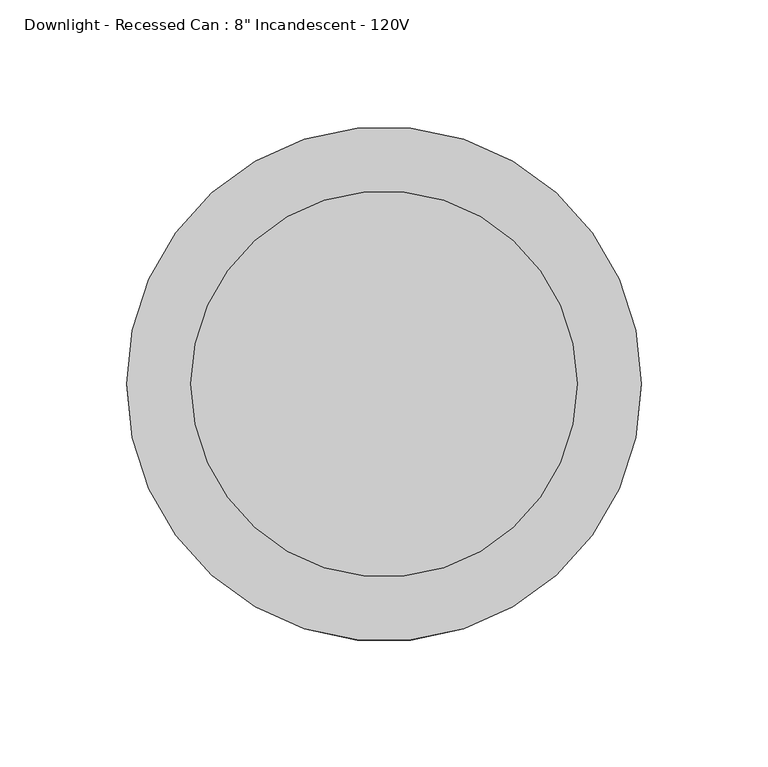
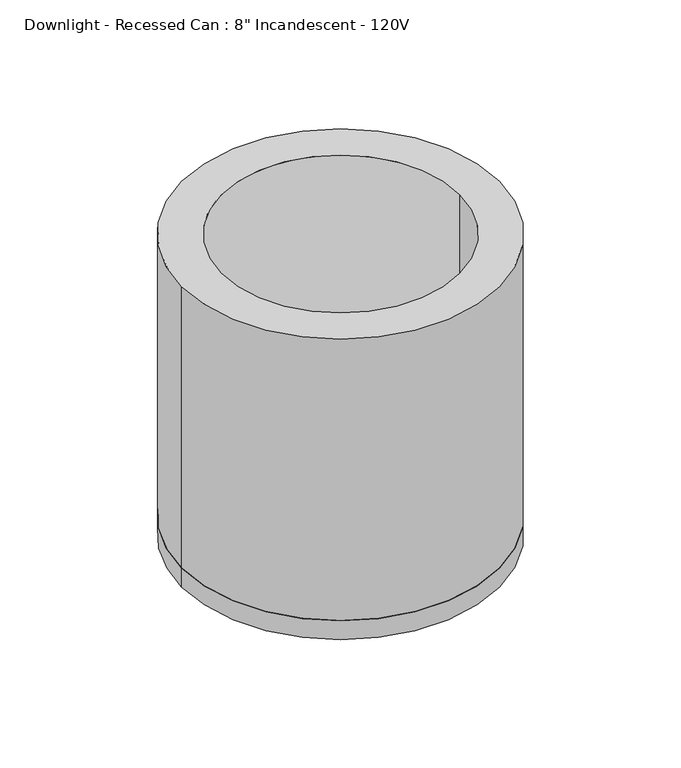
"""IFC4 building model written with IfcOpenShell, lengths in millimetres: light fixture geometry."""

from ifc_helpers import new_model, si_unit, point, frame, origin, origin_2d, place, context, project, spatial, circle_curve, trimmed, segment, composite_curve, outline, extrude, source, transform, mapped, element, save


def light_fixture_66915e3b(model_context):
    return source(origin(), model_context, "Body", "SweptSolid", [
        extrude(outline(composite_curve([segment(trimmed(circle_curve(origin_2d(), 101.6), [point((-101.6, 0.0))], [point((101.6, 0.0))], False, "CARTESIAN"), True, "CONTINUOUS"), segment(trimmed(circle_curve(origin_2d(), 101.6), [point((101.6, 0.0))], [point((-101.6, 0.0))], False, "CARTESIAN"), True, "CONTINUOUS")], self_intersect=False)), frame((0.0, 0.0, -203.2), z_axis=(0.0, 0.0, 1.0), x_axis=(1.0, 0.0, 0.0)), (0.0, 0.0, 1.0), 12.7),
        extrude(outline(composite_curve([segment(trimmed(circle_curve(origin_2d(), 101.6), [point((-101.6, 0.0))], [point((101.6, 0.0))], False, "CARTESIAN"), True, "CONTINUOUS"), segment(trimmed(circle_curve(origin_2d(), 101.6), [point((101.6, 0.0))], [point((-101.6, 0.0))], False, "CARTESIAN"), True, "CONTINUOUS")], self_intersect=False), holes=[composite_curve([segment(trimmed(circle_curve(origin_2d(), 76.2), [point((-76.2, 0.0))], [point((76.2, 0.0))], True, "CARTESIAN"), True, "CONTINUOUS"), segment(trimmed(circle_curve(origin_2d(), 76.2), [point((76.2, 0.0))], [point((-76.2, 0.0))], True, "CARTESIAN"), True, "CONTINUOUS")], self_intersect=False)]), frame((0.0, 0.0, -190.5), z_axis=(0.0, 0.0, 1.0), x_axis=(1.0, 0.0, 0.0)), (0.0, 0.0, 1.0), 190.5),
    ])


if __name__ == "__main__":
    model = new_model("IFC4")
    model_context = context("Model", 3, world=origin())
    ifc_project = project(units=[si_unit("LENGTHUNIT", "METRE", prefix="MILLI")], contexts=[model_context])
    site = spatial("IfcSite", under=ifc_project)
    building = spatial("IfcBuilding", under=site)
    placement = place(None, origin())
    light_fixture_shape = light_fixture_66915e3b(model_context)
    element("IfcLightFixture", 1, ObjectType="Downlight - Recessed Can : 8\" Incandescent - 120V", at=placement, inside=building, context=model_context, shape_type="MappedRepresentation", body=[
        mapped(light_fixture_shape, transform((0.0, 0.0, 0.0), x_axis=(1.0, 0.0, 0.0), y_axis=(0.0, 1.0, 0.0), z_axis=(0.0, 0.0, 1.0))),
    ])
    save(model, "model.ifc")
